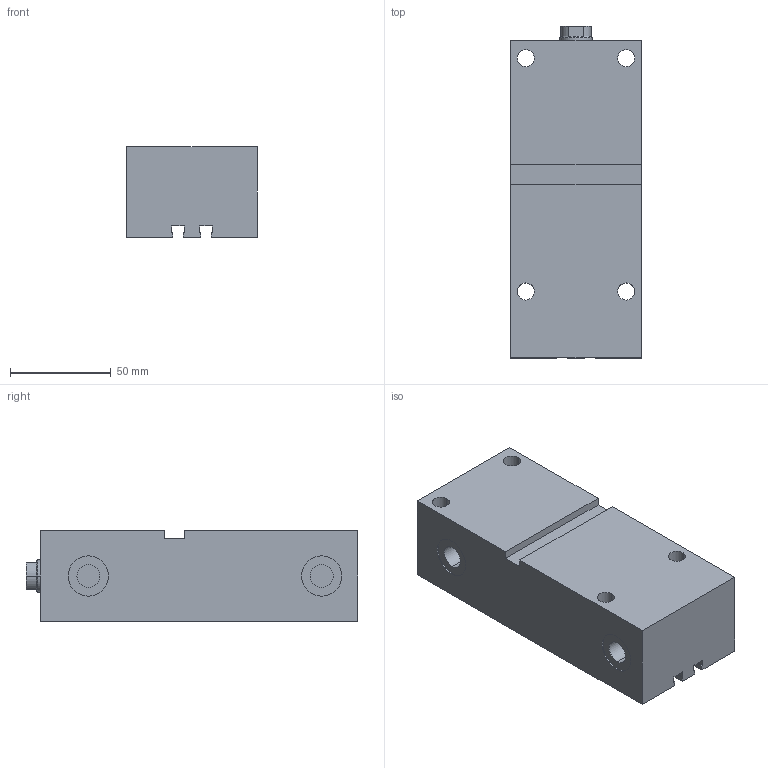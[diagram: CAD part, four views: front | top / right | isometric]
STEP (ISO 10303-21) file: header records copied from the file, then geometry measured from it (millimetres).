
FILE_DESCRIPTION (( 'STEP AP203' ), '1' );
FILE_NAME ('GERMA_Blockzylinder_701-025-100.STEP', '2016-08-01T17:00:57', ( '' ), ( '' ), 'SwSTEP 2.0', 'SolidWorks 2015', '' );
FILE_SCHEMA (( 'CONFIG_CONTROL_DESIGN' ));
Length unit declared in the file: millimetre
Products named in the file (3): GERMA_Blockzylinder_701-025-100; Kolben_MT 70x-025_Kolben_MT DU.25-Hub100-IG; GH-700-025_GH-701-025-100
Assembly tree (2 placements, depth 2):
  GERMA_Blockzylinder_701-025-100
    GH-700-025_GH-701-025-100
    Kolben_MT 70x-025_Kolben_MT DU.25-Hub100-IG
Bounding box: 65 x 165 x 45 mm (x, y, z)
Volume: 406641.5 mm3; surface area: 71467.9 mm2
Topology: 2 solids, 2 shells, 96 faces, 226 edges, 142 vertices
Faces by surface type: plane 43, cylinder 39, cone 14
Entity records: 3042 total; most frequent: DIRECTION 511, CARTESIAN_POINT 463, ORIENTED_EDGE 440, EDGE_CURVE 220, AXIS2_PLACEMENT_3D 190, VERTEX_POINT 142, LINE 131, VECTOR 131
